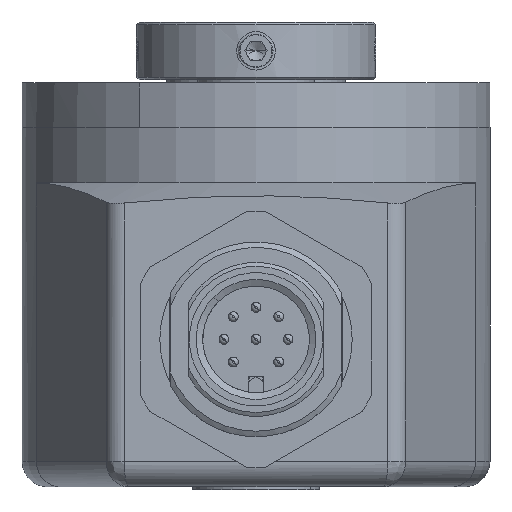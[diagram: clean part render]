
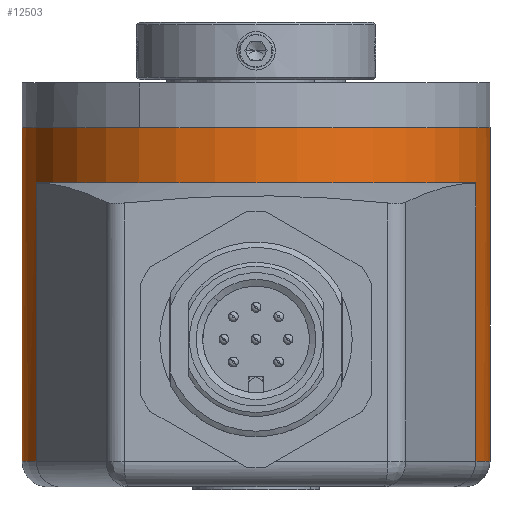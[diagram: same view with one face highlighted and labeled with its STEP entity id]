
A CAD part, front view. The second image highlights one B-rep face of the part: STEP entity #12503.
In plain terms, the highlighted cylindrical face has radius 18.25 mm (diameter 36.5 mm), a partial arc.
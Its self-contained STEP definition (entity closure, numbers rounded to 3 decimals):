
#3181 = LINE ( 'NONE', #25805, #3183 ) ;
#3182 = CIRCLE ( 'NONE', #18540, 18.25 ) ;
#3183 = VECTOR ( 'NONE', #25806, 1000. ) ;
#3184 = LINE ( 'NONE', #25810, #3186 ) ;
#3185 = CIRCLE ( 'NONE', #18541, 18.25 ) ;
#3186 = VECTOR ( 'NONE', #25811, 1000. ) ;
#3187 = LINE ( 'NONE', #25815, #3189 ) ;
#3188 = CIRCLE ( 'NONE', #18542, 18.25 ) ;
#3189 = VECTOR ( 'NONE', #25816, 1000. ) ;
#3190 = LINE ( 'NONE', #25817, #3191 ) ;
#3191 = VECTOR ( 'NONE', #25818, 1000. ) ;
#5504 = EDGE_CURVE ( 'NONE', #11659, #11556, #3182, .T. ) ;
#5505 = EDGE_CURVE ( 'NONE', #11659, #11643, #3181, .T. ) ;
#5506 = EDGE_CURVE ( 'NONE', #11643, #11706, #3185, .T. ) ;
#5507 = EDGE_CURVE ( 'NONE', #11584, #11706, #3184, .T. ) ;
#5508 = EDGE_CURVE ( 'NONE', #11584, #11647, #3188, .T. ) ;
#5509 = EDGE_CURVE ( 'NONE', #11647, #11355, #3187, .T. ) ;
#5510 = EDGE_CURVE ( 'NONE', #11556, #11478, #3190, .T. ) ;
#6330 = CIRCLE ( 'NONE', #15044, 18.25 ) ;
#8234 = CARTESIAN_POINT ( 'NONE',  ( 17.149, -6.242, -29.5 ) ) ;
#8357 = CARTESIAN_POINT ( 'NONE',  ( 18.25, 0., -29.5 ) ) ;
#8435 = CARTESIAN_POINT ( 'NONE',  ( 18.25, 0., -3.5 ) ) ;
#8463 = CARTESIAN_POINT ( 'NONE',  ( -17.149, -6.242, -7.806 ) ) ;
#8522 = CARTESIAN_POINT ( 'NONE',  ( -18.25, 0., -29.5 ) ) ;
#8526 = CARTESIAN_POINT ( 'NONE',  ( 17.149, -6.242, -7.806 ) ) ;
#8538 = CARTESIAN_POINT ( 'NONE',  ( -18.25, 0., -3.5 ) ) ;
#8585 = CARTESIAN_POINT ( 'NONE',  ( -17.149, -6.242, -29.5 ) ) ;
#9272 = CARTESIAN_POINT ( 'NONE',  ( 0., 0., -3.5 ) ) ;
#9273 = DIRECTION ( 'NONE',  ( 0., 0., -1. ) ) ;
#9274 = DIRECTION ( 'NONE',  ( 1., 0., 0. ) ) ;
#11355 = VERTEX_POINT ( 'NONE', #8234 ) ;
#11478 = VERTEX_POINT ( 'NONE', #8357 ) ;
#11556 = VERTEX_POINT ( 'NONE', #8435 ) ;
#11584 = VERTEX_POINT ( 'NONE', #8463 ) ;
#11643 = VERTEX_POINT ( 'NONE', #8522 ) ;
#11647 = VERTEX_POINT ( 'NONE', #8526 ) ;
#11659 = VERTEX_POINT ( 'NONE', #8538 ) ;
#11706 = VERTEX_POINT ( 'NONE', #8585 ) ;
#12503 = ADVANCED_FACE ( 'NONE', ( #27441 ), #27447, .T. ) ;
#15044 = AXIS2_PLACEMENT_3D ( 'NONE', #16890, #16891, #16892 ) ;
#16890 = CARTESIAN_POINT ( 'NONE',  ( 0., 0., -29.5 ) ) ;
#16891 = DIRECTION ( 'NONE',  ( 0., 0., 1. ) ) ;
#16892 = DIRECTION ( 'NONE',  ( -1., 0., 0. ) ) ;
#18318 = EDGE_CURVE ( 'NONE', #11355, #11478, #6330, .T. ) ;
#18540 = AXIS2_PLACEMENT_3D ( 'NONE', #25802, #25803, #25804 ) ;
#18541 = AXIS2_PLACEMENT_3D ( 'NONE', #25807, #25808, #25809 ) ;
#18542 = AXIS2_PLACEMENT_3D ( 'NONE', #25812, #25813, #25814 ) ;
#20731 = EDGE_LOOP ( 'NONE', ( #21309, #21310, #21311, #21312, #21313, #21314, #21315, #21316 ) ) ;
#21309 = ORIENTED_EDGE ( 'NONE', *, *, #5504, .F. ) ;
#21310 = ORIENTED_EDGE ( 'NONE', *, *, #5505, .T. ) ;
#21311 = ORIENTED_EDGE ( 'NONE', *, *, #5506, .T. ) ;
#21312 = ORIENTED_EDGE ( 'NONE', *, *, #5507, .F. ) ;
#21313 = ORIENTED_EDGE ( 'NONE', *, *, #5508, .T. ) ;
#21314 = ORIENTED_EDGE ( 'NONE', *, *, #5509, .T. ) ;
#21315 = ORIENTED_EDGE ( 'NONE', *, *, #18318, .T. ) ;
#21316 = ORIENTED_EDGE ( 'NONE', *, *, #5510, .F. ) ;
#23839 = AXIS2_PLACEMENT_3D ( 'NONE', #9272, #9273, #9274 ) ;
#25802 = CARTESIAN_POINT ( 'NONE',  ( 0., 0., -3.5 ) ) ;
#25803 = DIRECTION ( 'NONE',  ( 0., 0., 1. ) ) ;
#25804 = DIRECTION ( 'NONE',  ( -1., 0., 0. ) ) ;
#25805 = CARTESIAN_POINT ( 'NONE',  ( -18.25, 0., -3.5 ) ) ;
#25806 = DIRECTION ( 'NONE',  ( 0., 0., -1. ) ) ;
#25807 = CARTESIAN_POINT ( 'NONE',  ( 0., 0., -29.5 ) ) ;
#25808 = DIRECTION ( 'NONE',  ( 0., 0., 1. ) ) ;
#25809 = DIRECTION ( 'NONE',  ( -1., 0., 0. ) ) ;
#25810 = CARTESIAN_POINT ( 'NONE',  ( -17.149, -6.242, -3.5 ) ) ;
#25811 = DIRECTION ( 'NONE',  ( 0., 0., -1. ) ) ;
#25812 = CARTESIAN_POINT ( 'NONE',  ( 0., 0., -7.806 ) ) ;
#25813 = DIRECTION ( 'NONE',  ( 0., 0., 1. ) ) ;
#25814 = DIRECTION ( 'NONE',  ( -1., 0., 0. ) ) ;
#25815 = CARTESIAN_POINT ( 'NONE',  ( 17.149, -6.242, -3.5 ) ) ;
#25816 = DIRECTION ( 'NONE',  ( 0., 0., -1. ) ) ;
#25817 = CARTESIAN_POINT ( 'NONE',  ( 18.25, 0., -3.5 ) ) ;
#25818 = DIRECTION ( 'NONE',  ( 0., 0., -1. ) ) ;
#27441 = FACE_OUTER_BOUND ( 'NONE', #20731, .T. ) ;
#27447 = CYLINDRICAL_SURFACE ( 'NONE', #23839, 18.25 ) ;
